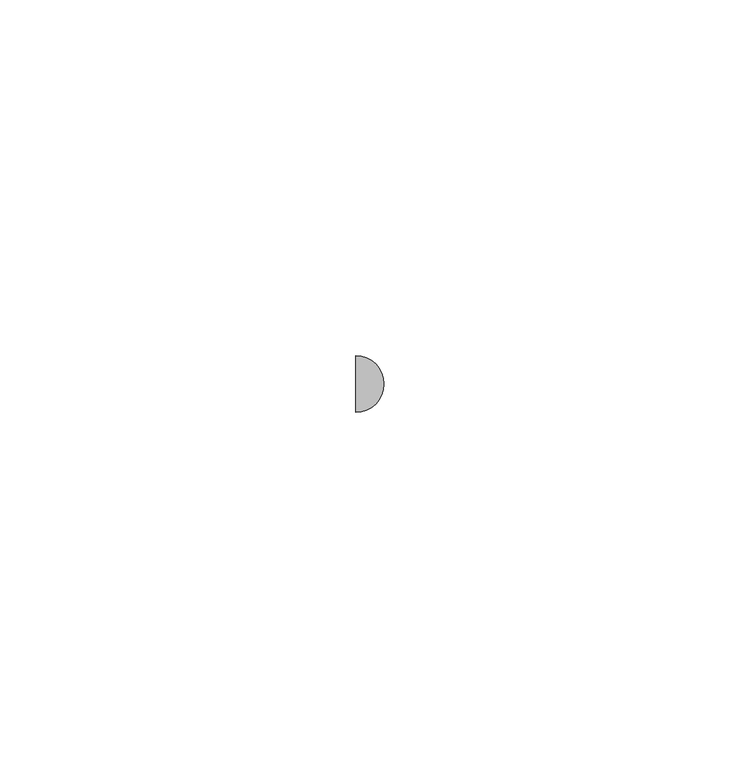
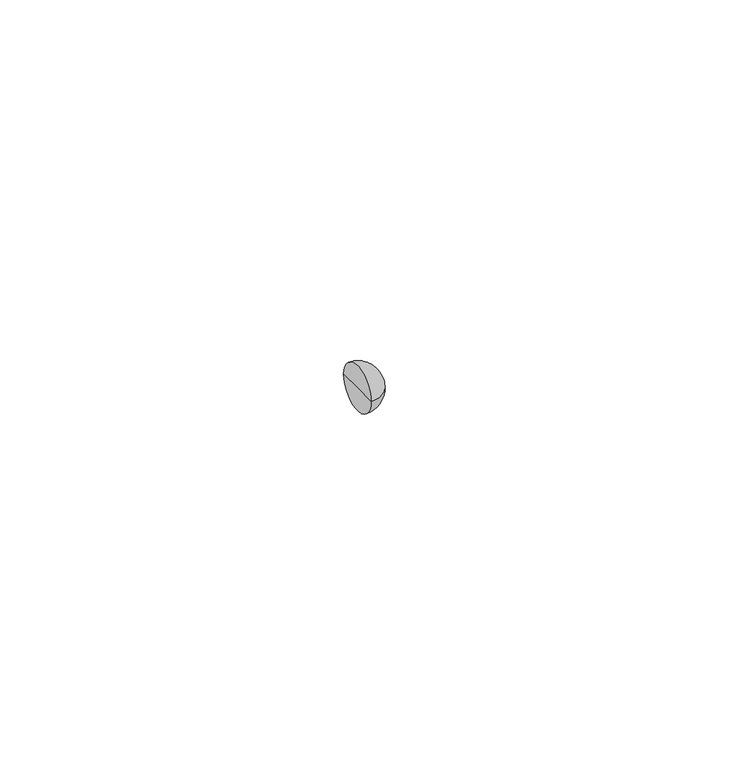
"""IFC4 building model written with IfcOpenShell, lengths in millimetres: pipe fitting geometry, UN_PIF_PP assembled branch S-S_equal_PipeLife : Black, var. DN/OD (max. ø125)."""

import ifcopenshell
import ifcopenshell.guid

model = None  # the IFC model being written
_history = None  # IfcOwnerHistory: only IFC2X3 demands one
_inside = {}  # id of a spatial element -> (the spatial element, [elements in it])
_under = {}  # id of a project, library or spatial element -> (it, [spatial elements below it])
_declared = {}  # id of a project -> (the project, [libraries it declares])
_typed = {}  # id of a type object -> (the type object, [elements of that type])
_made_of = {}  # id of a material, layer set ... -> (it, [elements and type objects made of it])


def new_model(schema):
    """Start an empty IFC model of exactly this schema.

    Asked for "IFC4X3", IfcOpenShell would pick the latest addendum, in which some entities
    have other attributes; the version numbers below select the first issue.
    IFC2X3 requires an IfcOwnerHistory on every rooted entity: one is made here for all.
    """
    global model, _history
    if schema == "IFC4X3":
        model = ifcopenshell.file(schema_version=(4, 3, 0, 0))
    else:
        model = ifcopenshell.file(schema=schema)
    _inside.clear()
    _under.clear()
    _declared.clear()
    _typed.clear()
    _made_of.clear()
    _history = None
    if model.schema == "IFC2X3":
        org = make("IfcOrganization", Name="unknown")
        user = make(
            "IfcPersonAndOrganization",
            ThePerson=make("IfcPerson", FamilyName="unknown"),
            TheOrganization=org,
        )
        app = make(
            "IfcApplication",
            ApplicationDeveloper=org,
            Version="unknown",
            ApplicationFullName="unknown",
            ApplicationIdentifier="unknown",
        )
        _history = make(
            "IfcOwnerHistory",
            OwningUser=user,
            OwningApplication=app,
            ChangeAction="ADDED",
            CreationDate=0,
        )
    return model


def make(cls, **values):
    """One entity of the class cls with the attributes given. An attribute that is None is left unset."""
    return model.create_entity(
        cls, **{name: value for name, value in values.items() if value is not None}
    )


def rooted(cls, **values):
    """An entity with a GlobalId (a new one), such as an element, a storey or a relation."""
    return make(cls, GlobalId=ifcopenshell.guid.new(), OwnerHistory=_history, **values)


def si_unit(unit_type, name, prefix=None):
    """IfcSIUnit, for example si_unit("LENGTHUNIT", "METRE", prefix="MILLI")."""
    return make("IfcSIUnit", UnitType=unit_type, Prefix=prefix, Name=name)


def assignment(units):
    """IfcUnitAssignment: the units of a project."""
    return None if units is None else make("IfcUnitAssignment", Units=units)


def point(xyz):
    """IfcCartesianPoint."""
    return None if xyz is None else make("IfcCartesianPoint", Coordinates=xyz)


def direction(xyz):
    """IfcDirection."""
    return None if xyz is None else make("IfcDirection", DirectionRatios=xyz)


def frame(location, z_axis=None, x_axis=None):
    """IfcAxis2Placement3D, a coordinate frame: its origin and axes. An axis left out is left unset."""
    return make(
        "IfcAxis2Placement3D",
        Location=point(location),
        Axis=direction(z_axis),
        RefDirection=direction(x_axis),
    )


def origin():
    """The frame at (0, 0, 0) with its axes left unset."""
    return frame((0.0, 0.0, 0.0))


def place(relative_to, where):
    """IfcLocalPlacement: puts the frame where relative to a parent placement (None: the world)."""
    return make(
        "IfcLocalPlacement", PlacementRelTo=relative_to, RelativePlacement=where
    )


def context(
    kind, dimensions, precision=None, world=None, true_north=None, identifier=None
):
    """IfcGeometricRepresentationContext, for example the 3D "Model" context."""
    return make(
        "IfcGeometricRepresentationContext",
        ContextIdentifier=identifier,
        ContextType=kind,
        CoordinateSpaceDimension=dimensions,
        Precision=precision,
        WorldCoordinateSystem=world,
        TrueNorth=true_north,
    )


def project(units=None, contexts=None):
    """IfcProject with its units and contexts."""
    return rooted(
        "IfcProject",
        Name="project",
        RepresentationContexts=contexts,
        UnitsInContext=assignment(units),
    )


def spatial(cls, under=None, at=None, **own):
    """A site, building, storey or space (cls), placed at a placement, below another one or the project."""
    s = rooted(cls, ObjectPlacement=at, **own)
    if under is not None:
        _under.setdefault(under.id(), (under, []))[1].append(s)
    return s


def circle_curve(where, radius):
    """IfcCircle in the frame where."""
    return make("IfcCircle", Position=where, Radius=radius)


def ellipse_curve(where, semi_axis1, semi_axis2):
    """IfcEllipse in the frame where."""
    return make(
        "IfcEllipse", Position=where, SemiAxis1=semi_axis1, SemiAxis2=semi_axis2
    )


def trimmed(basis, trim1, trim2, sense, master):
    """IfcTrimmedCurve: the piece of a basis curve between two trims."""
    return make(
        "IfcTrimmedCurve",
        BasisCurve=basis,
        Trim1=trim1,
        Trim2=trim2,
        SenseAgreement=sense,
        MasterRepresentation=master,
    )


def shape(context_of_items, identifier, shape_type, items):
    """IfcShapeRepresentation: the items that make up one representation, for example the "Body"."""
    return make(
        "IfcShapeRepresentation",
        ContextOfItems=context_of_items,
        RepresentationIdentifier=identifier,
        RepresentationType=shape_type,
        Items=items,
    )


def source(mapping_origin, context_of_items, identifier, shape_type, items):
    """IfcRepresentationMap: a shape defined once, which mapped items show again and again."""
    return make(
        "IfcRepresentationMap",
        MappingOrigin=mapping_origin,
        MappedRepresentation=shape(context_of_items, identifier, shape_type, items),
    )


def transform(
    local_origin,
    x_axis=None,
    y_axis=None,
    z_axis=None,
    scale=None,
    scale2=None,
    scale3=None,
    uniform=True,
):
    """IfcCartesianTransformationOperator3D, or its non-uniform kind. x_axis, y_axis, z_axis: its Axis1, 2, 3."""
    if uniform:
        return make(
            "IfcCartesianTransformationOperator3D",
            Axis1=direction(x_axis),
            Axis2=direction(y_axis),
            LocalOrigin=point(local_origin),
            Scale=scale,
            Axis3=direction(z_axis),
        )
    return make(
        "IfcCartesianTransformationOperator3DnonUniform",
        Axis1=direction(x_axis),
        Axis2=direction(y_axis),
        LocalOrigin=point(local_origin),
        Scale=scale,
        Axis3=direction(z_axis),
        Scale2=scale2,
        Scale3=scale3,
    )


def mapped(mapping_source, mapping_target):
    """IfcMappedItem: shows the shape of a source again, moved by a transform."""
    return make(
        "IfcMappedItem", MappingSource=mapping_source, MappingTarget=mapping_target
    )


def made_of(thing, what):
    """Note that an element or type object is made of a material, layer set ...; save() writes the relation."""
    if what is not None:
        _made_of.setdefault(what.id(), (what, []))[1].append(thing)
    return thing


def element(
    cls,
    number,
    at=None,
    inside=None,
    cuts=None,
    type_object=None,
    material=None,
    context=None,
    identifier="Body",
    shape_type=None,
    held_by="IfcProductDefinitionShape",
    body=None,
    shapes=None,
    **own,
):
    """One element of the class cls, such as IfcWall. Its Tag is "e" and its number.

    at: its placement. inside: the storey or other place that contains it. cuts: it is an
    opening in that element (IfcRelVoidsElement). A single representation is given by context,
    identifier, shape_type and body (its items); several are given by shapes. held_by: the class
    of the entity that holds the representations. save() writes the other relations.
    """
    e = rooted(cls, Tag="e%d" % number, ObjectPlacement=at, **own)
    if body is not None:
        shapes = [shape(context, identifier, shape_type, body)]
    if shapes is not None:
        e.Representation = make(held_by, Representations=shapes)
    if inside is not None:
        _inside.setdefault(inside.id(), (inside, []))[1].append(e)
    if cuts is not None:
        rooted(
            "IfcRelVoidsElement", RelatingBuildingElement=cuts, RelatedOpeningElement=e
        )
    if type_object is not None:
        _typed.setdefault(type_object.id(), (type_object, []))[1].append(e)
    return made_of(e, material)


def aggregate(whole, parts):
    """IfcRelAggregates: a whole, such as a stair, and the parts it consists of."""
    return rooted("IfcRelAggregates", RelatingObject=whole, RelatedObjects=parts)


def save(model, path):
    """Write the relations noted so far, then the file.

    IfcRelAggregates (storeys below a building ...), IfcRelContainedInSpatialStructure (elements
    in a storey), IfcRelDefinesByType, IfcRelAssociatesMaterial and IfcRelDeclares: one each for
    every whole, place, type object, material and project.
    """
    for whole, parts in _under.values():
        aggregate(whole, parts)
    for where, things in _inside.values():
        rooted(
            "IfcRelContainedInSpatialStructure",
            RelatedElements=things,
            RelatingStructure=where,
        )
    for kind, things in _typed.values():
        rooted("IfcRelDefinesByType", RelatedObjects=things, RelatingType=kind)
    for what, things in _made_of.values():
        rooted("IfcRelAssociatesMaterial", RelatedObjects=things, RelatingMaterial=what)
    for by, libraries in _declared.values():
        rooted("IfcRelDeclares", RelatingContext=by, RelatedDefinitions=libraries)
    model.write(path)


def plane_surface(at):
    """IfcPlane: the flat surface through the origin of the frame at, square to its z axis."""
    return make("IfcPlane", Position=at)


def revolved_surface(curve, axis_point, axis_direction):
    """IfcSurfaceOfRevolution: the curve turned about the line through axis_point along axis_direction."""
    return make(
        "IfcSurfaceOfRevolution",
        SweptCurve=make("IfcArbitraryOpenProfileDef", ProfileType="CURVE", Curve=curve),
        AxisPosition=make("IfcAxis1Placement", Location=point(axis_point), Axis=direction(axis_direction)),
    )


def advanced_brep(points, edges, surfaces, faces):
    """IfcAdvancedBrep: a solid bounded by faces that lie on surfaces and meet in shared edges.

    An edge is (start, end): straight between two places in points (the first is 0);
    or (start, end, curve); or (start, end, curve, False) where it runs against its curve.
    A face is (place in surfaces, loops), or (place, loops, False) where it looks against
    its surface's normal. A loop lists edges by number (the first is 1), with a minus sign
    where the edge is run from its end to its start. The first loop is the outer one.
    """
    corners = [point(p) for p in points]
    vertices = [make("IfcVertexPoint", VertexGeometry=c) for c in corners]
    made = []
    for start, end, *more in edges:
        made.append(
            make(
                "IfcEdgeCurve",
                EdgeStart=vertices[start],
                EdgeEnd=vertices[end],
                EdgeGeometry=more[0] if more else make("IfcPolyline", Points=[corners[start], corners[end]]),
                SameSense=more[1] if len(more) > 1 else True,
            )
        )
    hull = []
    for where, loops, *sense in faces:
        bounds = []
        for j, loop in enumerate(loops):
            ring = [make("IfcOrientedEdge", EdgeElement=made[abs(k) - 1], Orientation=k > 0) for k in loop]
            bounds.append(
                make(
                    "IfcFaceOuterBound" if j == 0 else "IfcFaceBound",
                    Bound=make("IfcEdgeLoop", EdgeList=ring),
                    Orientation=True,
                )
            )
        hull.append(make("IfcAdvancedFace", Bounds=bounds, FaceSurface=surfaces[where], SameSense=sense[0] if sense else True))
    return make("IfcAdvancedBrep", Outer=make("IfcClosedShell", CfsFaces=hull))


def pipe_fitting_6be5076d(model_context):
    return source(origin(), model_context, "Body", "AdvancedBrep", [
        advanced_brep(
        [(-197.5002451, 0.0, 0.0), (-197.5002451, 4.0, 0.0), (-197.5002451, -4.0, 0.0), (-193.5002451, 0.0, 0.0)],
        [
            (0, 1),
            (1, 2, circle_curve(frame((-197.5002451, 0.0, 0.0), z_axis=(-1.0, 0.0, 0.0), x_axis=(0.0, 1.0, 0.0)), 4.0)),
            (2, 0),
            (2, 1, circle_curve(frame((-197.5002451, 0.0, 0.0), z_axis=(-1.0, 0.0, 0.0), x_axis=(0.0, 1.0, 0.0)), 4.0)),
            (1, 3, circle_curve(frame((-197.5002451, 0.0, 0.0), z_axis=(0.0, 0.0, -1.0), x_axis=(1.0, 0.0, 0.0)), 4.0)),
            (3, 2, circle_curve(frame((-197.5002451, 0.0, 0.0), z_axis=(0.0, 0.0, -1.0), x_axis=(1.0, 0.0, 0.0)), 4.0)),
        ],
        [
            plane_surface(frame((-197.5002451, 0.0, 0.0), z_axis=(-1.0, 0.0, 0.0), x_axis=(0.0, 1.0, 0.0))),
            revolved_surface(trimmed(ellipse_curve(frame((-197.5002451, 0.0, 0.0), z_axis=(0.0, 0.0, 1.0), x_axis=(1.0, 0.0, 0.0)), 4.0, 4.0), [point((-193.5002451, 0.0, 0.0))], [point((-197.5002451, 4.0, 0.0))], True, "CARTESIAN"), (-216.3635531, 0.0, 0.0), (-1.0, 0.0, 0.0)),
        ],
        [
            (0, [[1, 2, 3]]),
            (0, [[-3, 4, -1]]),
            (1, [[-2, 5, 6]]),
            (1, [[-4, -6, -5]]),
        ],
    ),
    ])


if __name__ == "__main__":
    model = new_model("IFC4")
    model_context = context("Model", 3, world=origin())
    ifc_project = project(units=[si_unit("LENGTHUNIT", "METRE", prefix="MILLI")], contexts=[model_context])
    site = spatial("IfcSite", under=ifc_project)
    building = spatial("IfcBuilding", under=site)
    placement = place(None, origin())
    pipe_fitting_shape = pipe_fitting_6be5076d(model_context)
    element("IfcPipeFitting", 1, ObjectType="UN_PIF_PP assembled branch S-S_equal_PipeLife : Black, var. DN/OD (max. ø125)", at=placement, inside=building, context=model_context, shape_type="MappedRepresentation", body=[
        mapped(pipe_fitting_shape, transform((0.0, 0.0, 0.0), x_axis=(1.0, 0.0, 0.0), y_axis=(0.0, 1.0, 0.0), z_axis=(0.0, 0.0, 1.0))),
    ])
    save(model, "model.ifc")
